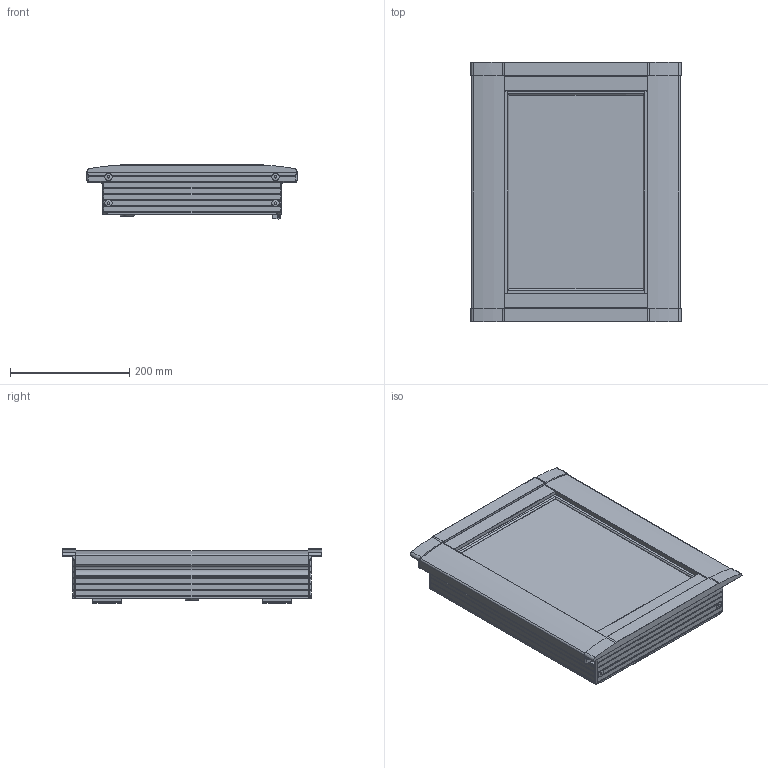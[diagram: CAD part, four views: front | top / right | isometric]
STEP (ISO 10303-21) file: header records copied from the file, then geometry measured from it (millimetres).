
FILE_DESCRIPTION (( 'STEP AP203' ), '1' );
FILE_NAME ('sy322266a.STEP', '2018-03-05T19:24:09', ( '' ), ( '' ), 'SwSTEP 2.0', 'SolidWorks 2014', '' );
FILE_SCHEMA (( 'CONFIG_CONTROL_DESIGN' ));
Length unit declared in the file: millimetre
Products named in the file (2): 89137105; sy322266a
Assembly tree (1 placements, depth 2):
  sy322266a
    89137105
Bounding box: 352 x 435 x 90.8 mm (x, y, z)
Surface area: 1244961.3 mm2 (no closed solid volume)
Topology: 0 solids, 51 shells, 2133 faces, 5934 edges, 3875 vertices
Faces by surface type: plane 992, cylinder 921, cone 132, bspline 88
Entity records: 74889 total; most frequent: CARTESIAN_POINT 21635, ORIENTED_EDGE 11768, DIRECTION 10279, EDGE_CURVE 5912, VERTEX_POINT 3875, AXIS2_PLACEMENT_3D 3592, VECTOR 3095, LINE 3095
